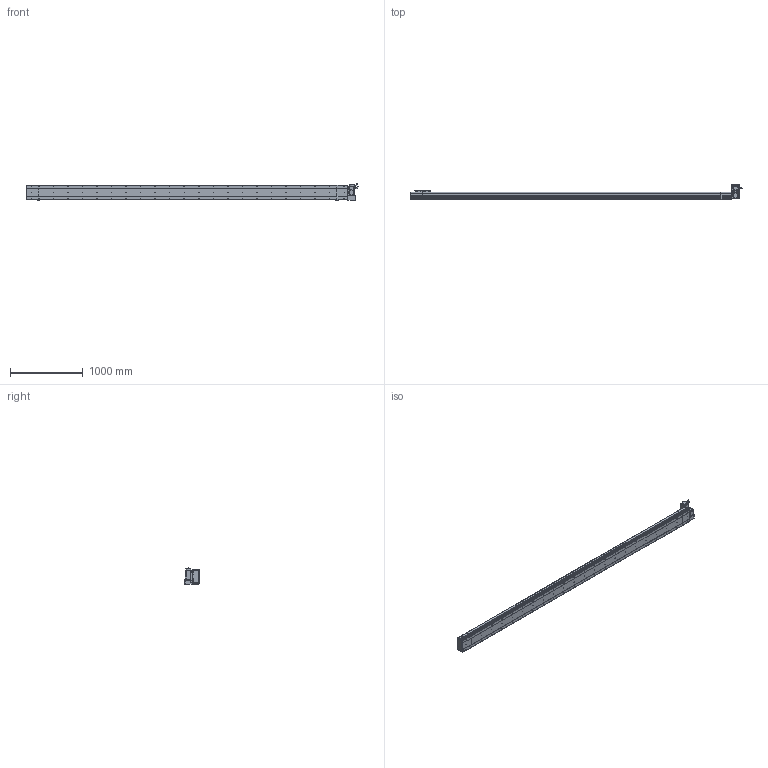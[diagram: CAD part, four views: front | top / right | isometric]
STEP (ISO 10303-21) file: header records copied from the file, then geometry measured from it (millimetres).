
FILE_DESCRIPTION (( 'STEP AP214' ), '1' );
FILE_NAME ('D20 CBH RT S4100.STEP', '2010-06-30T11:23:07', ( 'Conseil Régional Haute-Normandie' ), ( 'Conseil Régional Haute-Normandie' ), 'SwSTEP 2.0', 'SolidWorks 2010', '' );
FILE_SCHEMA (( 'AUTOMOTIVE_DESIGN' ));
Length unit declared in the file: millimetre
Products named in the file (31): Corp S4100_Default; Plaque de Bout Tail D20_Default; Couvercle S4100_Default; Glissiere_Default; Chariot D20_Default; Corp D20 S4100_Default; D20 CBH RT S4100; codeur 90BLDC125-640; Conecteur2_Default; Conecteur_Default; vis M5 L30_Default; Corp Tail D20 RT_Default; ecrou_Default; Tail D20+100_Default; Corp Tail D20+100_Default; Couvercle RT_Default; vis M5 L15_Default; Plaque De Serrage D20_Default; Plaque de Bout Head D20 RT_Default; Head RT_Default; Support moteur RT_Default; Couvercle_Default; Support Chariot D20_Default; Moteur motionking 90BLDC125A-640; corps 90BLDC125A-640; Plaque De Serrage D20 RT_Default; Cache Support Moteur RT_Default; vis M5 L47_Default; Rondelle Cache D20 RT_Default; avant 90BLDC125A-640
Assembly tree (68 placements, depth 4):
  D20 CBH RT S4100
    Corp D20 S4100_Default
      Couvercle S4100_Default
      Corp S4100_Default
    Tail D20+100_Default
      vis M5 L15_Default  x6
      Plaque de Bout Tail D20_Default
      Couvercle_Default
      Corp Tail D20+100_Default
      Plaque De Serrage D20_Default
    Head RT_Default
      ecrou_Default  x4
      vis M5 L15_Default  x14
      vis M5 L47_Default  x4
      Moteur motionking 90BLDC125A-640
        Conecteur_Default
        Conecteur2_Default
        avant 90BLDC125A-640
        corps 90BLDC125A-640
        codeur 90BLDC125-640
      vis M5 L30_Default  x4
      Corp Tail D20 RT_Default
      Rondelle Cache D20 RT_Default  x3
      Couvercle RT_Default
      Plaque de Bout Head D20 RT_Default
      Cache Support Moteur RT_Default
      Plaque De Serrage D20 RT_Default
      Support moteur RT_Default
    Chariot D20_Default
      Chariot D20_Default
      Support Chariot D20_Default
      vis M5 L15_Default  x8
      Glissiere_Default
Bounding box: 4564.45 x 206.5 x 229.7 mm (x, y, z)
Volume: 30190562.7 mm3; surface area: 5748142.6 mm2
Topology: 105 solids, 105 shells, 3919 faces, 9714 edges, 6310 vertices
Faces by surface type: plane 2164, bspline 806, cylinder 778, torus 95, cone 72, sphere 4
Entity records: 162230 total; most frequent: CARTESIAN_POINT 82775, ORIENTED_EDGE 15696, DIRECTION 12166, EDGE_CURVE 7848, VERTEX_POINT 5194, LINE 5020, VECTOR 5020, AXIS2_PLACEMENT_3D 3573
